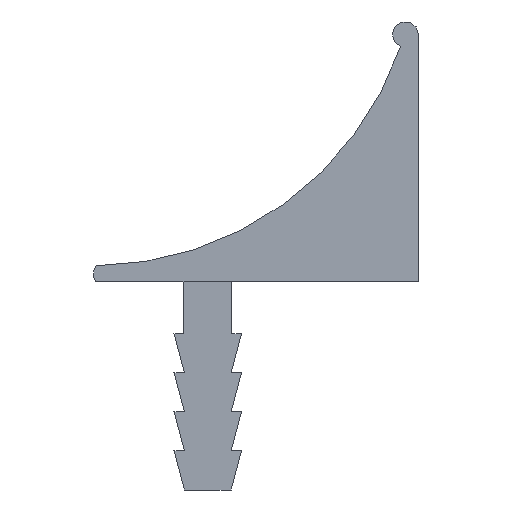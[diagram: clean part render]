
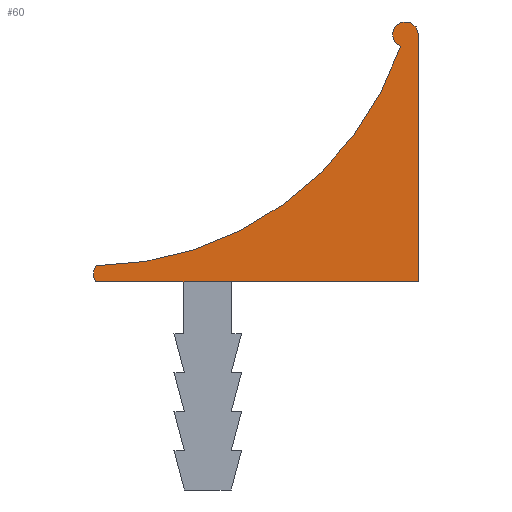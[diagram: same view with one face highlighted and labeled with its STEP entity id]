
A CAD part, left-side view. The second image highlights one B-rep face of the part: STEP entity #60.
In plain terms, the highlighted planar face has unit normal (-1, 0, 0).
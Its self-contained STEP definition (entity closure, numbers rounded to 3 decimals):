
#60 = ADVANCED_FACE( '', ( #137 ), #138, .F. );
#137 = FACE_OUTER_BOUND( '', #229, .T. );
#138 = PLANE( '', #230 );
#229 = EDGE_LOOP( '', ( #335, #336, #337, #338, #339 ) );
#230 = AXIS2_PLACEMENT_3D( '', #340, #341, #342 );
#335 = ORIENTED_EDGE( '', *, *, #585, .F. );
#336 = ORIENTED_EDGE( '', *, *, #586, .F. );
#337 = ORIENTED_EDGE( '', *, *, #575, .F. );
#338 = ORIENTED_EDGE( '', *, *, #587, .F. );
#339 = ORIENTED_EDGE( '', *, *, #588, .T. );
#340 = CARTESIAN_POINT( '', ( -30., 3.507, 21.117 ) );
#341 = DIRECTION( '', ( 1., 0., 0. ) );
#342 = DIRECTION( '', ( 0., 0., -1. ) );
#575 = EDGE_CURVE( '', #686, #687, #688, .T. );
#585 = EDGE_CURVE( '', #704, #705, #706, .T. );
#586 = EDGE_CURVE( '', #687, #704, #707, .T. );
#587 = EDGE_CURVE( '', #708, #686, #709, .T. );
#588 = EDGE_CURVE( '', #708, #705, #710, .T. );
#686 = VERTEX_POINT( '', #847 );
#687 = VERTEX_POINT( '', #848 );
#688 = LINE( '', #849, #850 );
#704 = VERTEX_POINT( '', #873 );
#705 = VERTEX_POINT( '', #874 );
#706 = CIRCLE( '', #875, 0.5 );
#707 = LINE( '', #876, #877 );
#708 = VERTEX_POINT( '', #878 );
#709 = CIRCLE( '', #879, 0.502 );
#710 = CIRCLE( '', #880, 12.5 );
#847 = CARTESIAN_POINT( '', ( -30., -8.998, 17.501 ) );
#848 = CARTESIAN_POINT( '', ( -30., -8.998, 8. ) );
#849 = CARTESIAN_POINT( '', ( -30., -8.998, 17.501 ) );
#850 = VECTOR( '', #1050, 1000. );
#873 = CARTESIAN_POINT( '', ( -30., 3.402, 8. ) );
#874 = CARTESIAN_POINT( '', ( -30., 3.386, 8.617 ) );
#875 = AXIS2_PLACEMENT_3D( '', #1058, #1059, #1060 );
#876 = CARTESIAN_POINT( '', ( -30., -8.998, 8. ) );
#877 = VECTOR( '', #1061, 1000. );
#878 = CARTESIAN_POINT( '', ( -30., -8.308, 17.036 ) );
#879 = AXIS2_PLACEMENT_3D( '', #1062, #1063, #1064 );
#880 = AXIS2_PLACEMENT_3D( '', #1065, #1066, #1067 );
#1050 = DIRECTION( '', ( 0., 0., -1. ) );
#1058 = CARTESIAN_POINT( '', ( -30., 3.001, 8.299 ) );
#1059 = DIRECTION( '', ( 1., 0., 0. ) );
#1060 = DIRECTION( '', ( 0., 0., -1. ) );
#1061 = DIRECTION( '', ( 0., 1., 0. ) );
#1062 = CARTESIAN_POINT( '', ( -30., -8.496, 17.501 ) );
#1063 = DIRECTION( '', ( 1., 0., 0. ) );
#1064 = DIRECTION( '', ( 0., 0., -1. ) );
#1065 = CARTESIAN_POINT( '', ( -30., 3.507, 21.117 ) );
#1066 = DIRECTION( '', ( 1., 0., 0. ) );
#1067 = DIRECTION( '', ( 0., 0., -1. ) );
